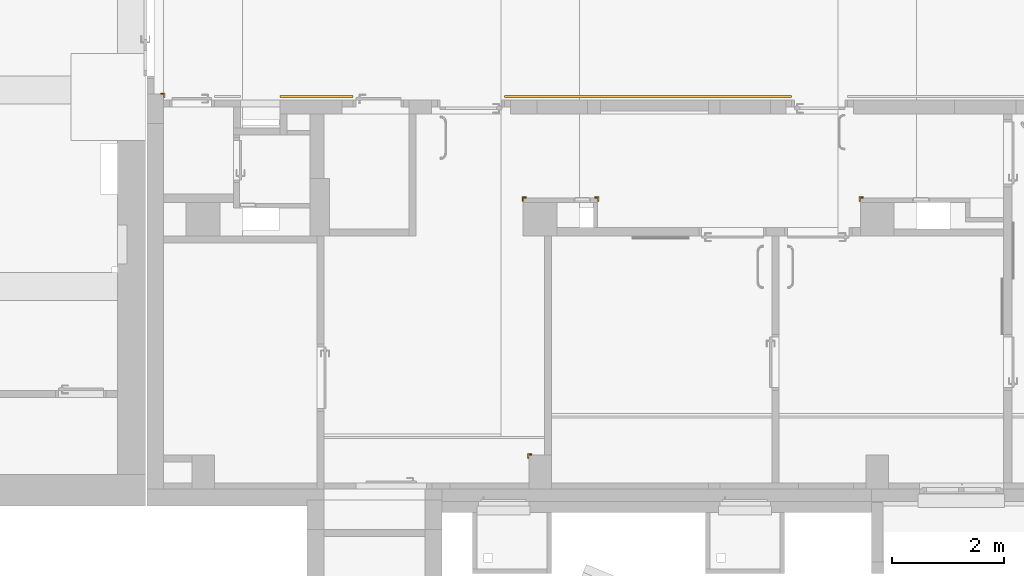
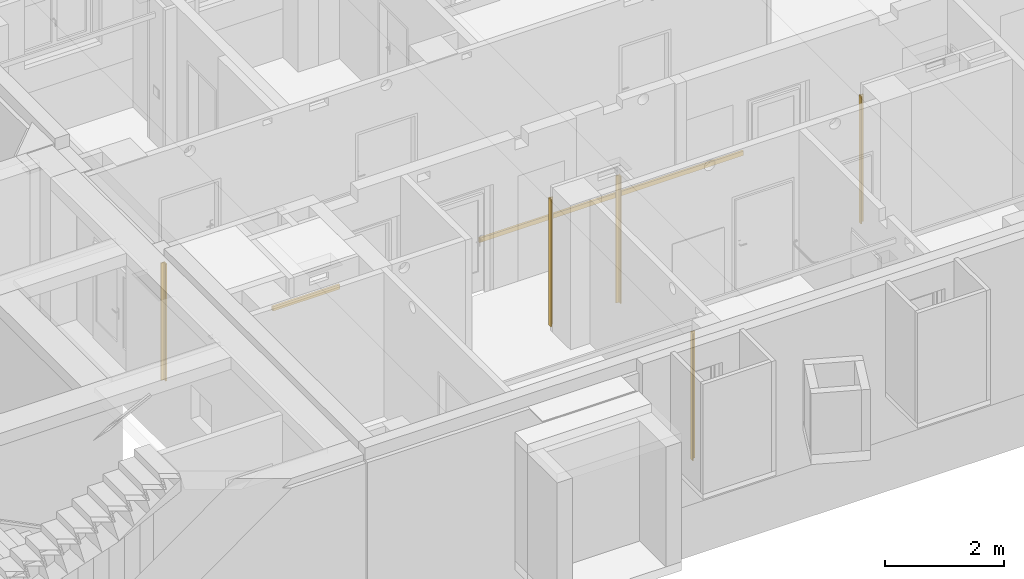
# One storey, part 79 of 84: 7 railings.
"""IFC4 building model written with IfcOpenShell, lengths in metres."""

from ifc_helpers import new_model, entity, si_unit, converted_unit, derived_unit, frame, origin, place, context, subcontext, project, spatial, faceted_brep, element, save


model = new_model("IFC4")

# Units and contexts
model_context = context("Model", 3, precision=1e-05, world=origin())
body_context = subcontext(model_context, "Body", "Model", "MODEL_VIEW")
ifc_project = project(units=[si_unit("LENGTHUNIT", "METRE"), si_unit("AREAUNIT", "SQUARE_METRE"), si_unit("VOLUMEUNIT", "CUBIC_METRE"), si_unit("MASSUNIT", "GRAM", prefix="KILO"), converted_unit("PLANEANGLEUNIT", "DEGREE", entity("IfcPlaneAngleMeasure", 0.0174532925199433), si_unit("PLANEANGLEUNIT", "RADIAN"), dimensions=[0, 0, 0, 0, 0, 0, 0]), derived_unit("THERMALTRANSMITTANCEUNIT", [(si_unit("POWERUNIT", "WATT"), 1), (si_unit("THERMODYNAMICTEMPERATUREUNIT", "KELVIN"), -1), (si_unit("LENGTHUNIT", "METRE"), -2)]), derived_unit("VOLUMETRICFLOWRATEUNIT", [(si_unit("LENGTHUNIT", "METRE"), 3), (converted_unit("TIMEUNIT", "hour", entity("IfcTimeMeasure", 3600.0), si_unit("TIMEUNIT", "SECOND"), dimensions=[0, 0, 1, 0, 0, 0, 0]), -1), (si_unit("LENGTHUNIT", "METRE"), -1)])], contexts=[model_context])

# Site, building, storey
site_placement = place(None, origin())
site = spatial("IfcSite", under=ifc_project, at=site_placement, Name="3. ASŘ", CompositionType="ELEMENT")
building_placement = place(site_placement, origin())
building = spatial("IfcBuilding", under=site, at=building_placement, Name="Pavilon C", CompositionType="ELEMENT")
storey_placement = place(building_placement, frame((0.0, 0.0, -3.3)))
storey = spatial("IfcBuildingStorey", under=building, at=storey_placement, Name="Půdorys 1.PP", CompositionType="ELEMENT", Elevation=-3.3)

# Railings
railing_1_placement = place(storey_placement, frame((5.37000000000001, 7.565, 0.81)))
element("IfcRailing", 1, at=railing_1_placement, inside=storey, Name="NÁRAZOVÉ MADLO", PredefinedType="USERDEFINED", context=body_context, shape_type="Brep", body=[
    faceted_brep([(5.105, 0.0, 0.09), (5.105, 0.04, 0.09), (5.105, 0.04, 0.0), (5.105, 0.0, 0.0), (-9.09494701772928e-16, 9.09494701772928e-16, 0.09), (-9.09494701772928e-16, 9.09494701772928e-16, 0.0), (-9.09494701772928e-16, 0.0400000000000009, 0.0), (-9.09494701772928e-16, 0.0400000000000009, 0.09)], [[[0, 1, 2, 3]], [[4, 5, 6, 7]], [[0, 4, 7, 1]], [[1, 7, 6, 2]], [[2, 6, 5, 3]], [[3, 5, 4, 0]]], orient=[[False], [False], [False], [False], [False], [False]]),
])
railing_2_placement = place(storey_placement, frame((1.37, 7.565, 0.81)))
element("IfcRailing", 2, at=railing_2_placement, inside=storey, Name="NÁRAZOVÉ MADLO", PredefinedType="USERDEFINED", context=body_context, shape_type="Brep", body=[
    faceted_brep([(1.3, 0.0, 0.09), (1.3, 0.04, 0.09), (1.3, 0.04, 0.0), (1.3, 0.0, 0.0), (2.27373675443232e-16, 0.0, 0.09), (2.27373675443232e-16, 0.0, 0.0), (2.27373675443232e-16, 0.04, 0.0), (2.27373675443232e-16, 0.04, 0.09)], [[[0, 1, 2, 3]], [[4, 5, 6, 7]], [[0, 4, 7, 1]], [[1, 7, 6, 2]], [[2, 6, 5, 3]], [[3, 5, 4, 0]]], orient=[[False], [False], [False], [False], [False], [False]]),
])
railing_3_placement = place(storey_placement, frame((-0.756, 7.569, 0.1)))
element("IfcRailing", 3, at=railing_3_placement, inside=storey, Name="OCHRANA ROHŮ", PredefinedType="USERDEFINED", context=body_context, shape_type="Brep", body=[
    faceted_brep([(0.0, 0.076, 2.4), (0.0, 0.056, 2.4), (0.0, 0.056, 4.54747350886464e-16), (0.0, 0.076, 0.0), (0.076, 0.076, 2.4), (0.076, 0.0, 2.4), (0.056, 0.0, 2.4), (0.056, 0.056, 2.4), (0.056, 0.056, 4.54747350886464e-16), (0.056, 0.0, 4.54747350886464e-16), (0.076, 0.0, 0.0), (0.076, 0.076, 0.0)], [[[0, 1, 2, 3]], [[0, 4, 5, 6, 7, 1]], [[1, 7, 8, 2]], [[2, 8, 9, 10, 11, 3]], [[3, 11, 4, 0]], [[5, 10, 9, 6]], [[7, 6, 9, 8]], [[11, 10, 5, 4]]], orient=[[False], [False], [False], [False], [False], [False], [False], [False]]),
])
railing_4_placement = place(storey_placement, frame((6.96900000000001, 5.719, 0.1)))
element("IfcRailing", 4, at=railing_4_placement, inside=storey, Name="OCHRANA ROHŮ", PredefinedType="USERDEFINED", context=body_context, shape_type="Brep", body=[
    faceted_brep([(0.0, 0.076, 2.6), (0.0, 0.056, 2.6), (0.0, 0.056, 4.54747350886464e-16), (0.0, 0.076, 0.0), (0.076, 0.076, 2.6), (0.076, 0.0, 2.6), (0.056, 0.0, 2.6), (0.056, 0.056, 2.6), (0.056, 0.056, 4.54747350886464e-16), (0.056, 0.0, 4.54747350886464e-16), (0.076, 0.0, 0.0), (0.076, 0.076, 0.0)], [[[0, 1, 2, 3]], [[0, 4, 5, 6, 7, 1]], [[1, 7, 8, 2]], [[2, 8, 9, 10, 11, 3]], [[3, 11, 4, 0]], [[5, 10, 9, 6]], [[7, 6, 9, 8]], [[11, 10, 5, 4]]], orient=[[False], [False], [False], [False], [False], [False], [False], [False]]),
])
for number, where in (
    (5, (5.68000000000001, 5.719, 0.1)),
    (6, (11.68, 5.719, 0.1)),
):
    element("IfcRailing", number, at=place(storey_placement, frame(where)), inside=storey, Name="OCHRANA ROHŮ", PredefinedType="USERDEFINED", context=body_context, shape_type="Brep", body=[
        faceted_brep([(0.0, 0.0, 2.6), (0.02, 0.0, 2.6), (0.02, 0.0, 4.54747350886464e-16), (0.0, 0.0, 0.0), (0.0, 0.076, 2.6), (0.076, 0.076, 2.6), (0.076, 0.056, 2.6), (0.02, 0.056, 2.6), (0.02, 0.056, 4.54747350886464e-16), (0.076, 0.056, 4.54747350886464e-16), (0.076, 0.076, 0.0), (0.0, 0.076, 0.0)], [[[0, 1, 2, 3]], [[0, 4, 5, 6, 7, 1]], [[1, 7, 8, 2]], [[2, 8, 9, 10, 11, 3]], [[3, 11, 4, 0]], [[5, 10, 9, 6]], [[7, 6, 9, 8]], [[11, 10, 5, 4]]], orient=[[False], [False], [False], [False], [False], [False], [False], [False]]),
    ])
railing_5_placement = place(storey_placement, frame((5.78000000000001, 1.14400000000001, 0.1)))
element("IfcRailing", 7, at=railing_5_placement, inside=storey, Name="OCHRANA ROHŮ", PredefinedType="USERDEFINED", context=body_context, shape_type="Brep", body=[
    faceted_brep([(0.0, 0.0, 2.6), (0.02, 0.0, 2.6), (0.02, 0.0, 4.54747350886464e-16), (0.0, 0.0, 0.0), (0.0, 0.076, 2.6), (0.076, 0.0760000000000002, 2.6), (0.076, 0.0560000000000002, 2.6), (0.02, 0.056, 2.6), (0.02, 0.056, 4.54747350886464e-16), (0.076, 0.0559999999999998, 4.54747350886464e-16), (0.076, 0.0759999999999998, 0.0), (0.0, 0.076, 0.0)], [[[0, 1, 2, 3]], [[0, 4, 5, 6, 7, 1]], [[1, 7, 8, 2]], [[2, 8, 9, 10, 11, 3]], [[3, 11, 4, 0]], [[5, 10, 9, 6]], [[7, 6, 9, 8]], [[11, 10, 5, 4]]], orient=[[False], [False], [False], [False], [False], [False], [False], [False]]),
])

save(model, "model.ifc")
